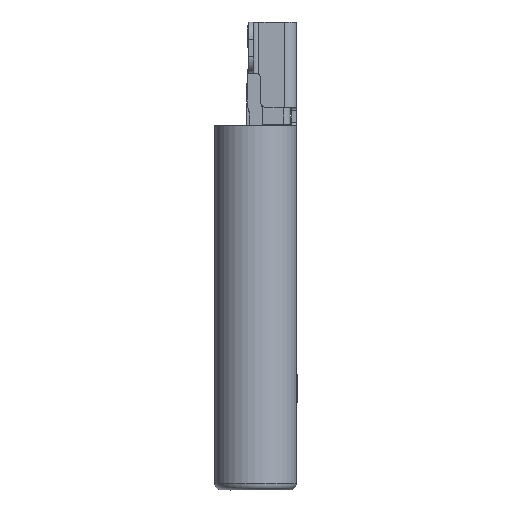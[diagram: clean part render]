
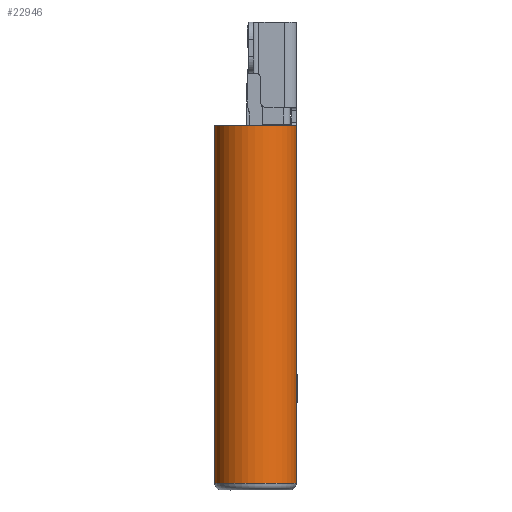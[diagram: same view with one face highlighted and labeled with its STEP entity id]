
A CAD part, left-side view. The second image highlights one B-rep face of the part: STEP entity #22946.
In plain terms, the highlighted cylindrical face has radius 1.2 mm (diameter 2.4 mm), a partial arc.
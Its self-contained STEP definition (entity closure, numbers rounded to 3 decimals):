
#1148 = EDGE_CURVE ( 'NONE', #76468, #43754, #90796, .T. ) ;
#1950 = LINE ( 'NONE', #65241, #100764 ) ;
#7349 = FACE_OUTER_BOUND ( 'NONE', #36205, .T. ) ;
#7470 = CARTESIAN_POINT ( 'NONE',  ( -2.925, -1.2, 10.7 ) ) ;
#8796 = DIRECTION ( 'NONE',  ( -1., 0., 0. ) ) ;
#12449 = EDGE_CURVE ( 'NONE', #76468, #71641, #1950, .T. ) ;
#16370 = ORIENTED_EDGE ( 'NONE', *, *, #1148, .T. ) ;
#21983 = AXIS2_PLACEMENT_3D ( 'NONE', #90172, #83661, #49586 ) ;
#22946 = ADVANCED_FACE ( 'NONE', ( #7349 ), #32217, .T. ) ;
#26189 = CARTESIAN_POINT ( 'NONE',  ( -2.925, -1.2, 10.7 ) ) ;
#32217 = CYLINDRICAL_SURFACE ( 'NONE', #99053, 1.2 ) ;
#34393 = DIRECTION ( 'NONE',  ( 0., 0., 1. ) ) ;
#36205 = EDGE_LOOP ( 'NONE', ( #81258, #16370, #98905, #44336 ) ) ;
#37468 = CIRCLE ( 'NONE', #21983, 1.2 ) ;
#40776 = AXIS2_PLACEMENT_3D ( 'NONE', #91528, #58539, #8796 ) ;
#43504 = LINE ( 'NONE', #7470, #75994 ) ;
#43754 = VERTEX_POINT ( 'NONE', #71507 ) ;
#44336 = ORIENTED_EDGE ( 'NONE', *, *, #101916, .F. ) ;
#49586 = DIRECTION ( 'NONE',  ( 0., 1., 0. ) ) ;
#49917 = CARTESIAN_POINT ( 'NONE',  ( -2.925, 1.2, 0.2 ) ) ;
#58539 = DIRECTION ( 'NONE',  ( 0., 0., 1. ) ) ;
#63535 = VERTEX_POINT ( 'NONE', #26189 ) ;
#65199 = CARTESIAN_POINT ( 'NONE',  ( -2.925, 0., 10.91 ) ) ;
#65241 = CARTESIAN_POINT ( 'NONE',  ( -2.925, 1.2, 0.2 ) ) ;
#71507 = CARTESIAN_POINT ( 'NONE',  ( -2.925, -1.2, 0.2 ) ) ;
#71641 = VERTEX_POINT ( 'NONE', #98764 ) ;
#74428 = EDGE_CURVE ( 'NONE', #63535, #43754, #43504, .T. ) ;
#75994 = VECTOR ( 'NONE', #76496, 1000. ) ;
#76468 = VERTEX_POINT ( 'NONE', #49917 ) ;
#76496 = DIRECTION ( 'NONE',  ( 0., 0., -1. ) ) ;
#81258 = ORIENTED_EDGE ( 'NONE', *, *, #12449, .F. ) ;
#83661 = DIRECTION ( 'NONE',  ( 0., 0., 1. ) ) ;
#90081 = DIRECTION ( 'NONE',  ( 0., 0., -1. ) ) ;
#90172 = CARTESIAN_POINT ( 'NONE',  ( -2.925, 0., 10.7 ) ) ;
#90796 = CIRCLE ( 'NONE', #40776, 1.2 ) ;
#91528 = CARTESIAN_POINT ( 'NONE',  ( -2.925, 0., 0.2 ) ) ;
#98764 = CARTESIAN_POINT ( 'NONE',  ( -2.925, 1.2, 10.7 ) ) ;
#98905 = ORIENTED_EDGE ( 'NONE', *, *, #74428, .F. ) ;
#99053 = AXIS2_PLACEMENT_3D ( 'NONE', #65199, #90081, #106799 ) ;
#100764 = VECTOR ( 'NONE', #34393, 1000. ) ;
#101916 = EDGE_CURVE ( 'NONE', #71641, #63535, #37468, .T. ) ;
#106799 = DIRECTION ( 'NONE',  ( 1., 0., 0. ) ) ;
